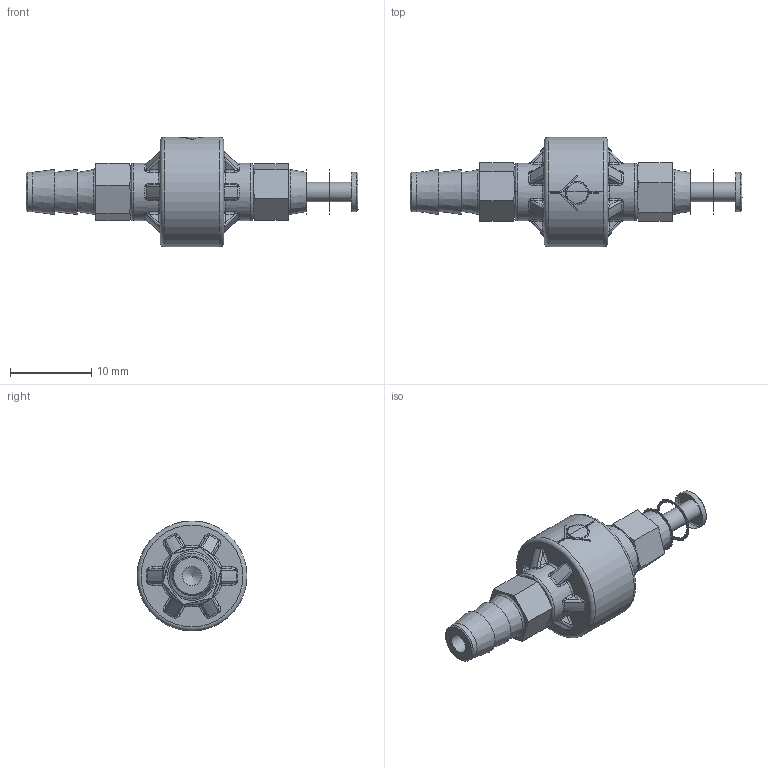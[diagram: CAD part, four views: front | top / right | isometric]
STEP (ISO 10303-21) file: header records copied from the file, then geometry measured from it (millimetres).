
FILE_DESCRIPTION(/* description */ (''),/* implementation_level */ '2;1');
FILE_NAME(/* name */ 'K:\Normteile INVENTOR\Air-Logic\Check Valves\F-2804-404-B86.stp',/* time_stamp */ '2020-07-01T14:14:15+02:00',/* author */ ('j.supersaxo'),/* organization */ (''),/* preprocessor_version */ 'ST-DEVELOPER v18',/* originating_system */ 'Autodesk Inventor 2020',/* authorisation */ '');
FILE_SCHEMA (('AUTOMOTIVE_DESIGN { 1 0 10303 214 3 1 1 }'));
Length unit declared in the file: millimetre
Products named in the file (1): F-2804-404-B86
Bounding box: 40.75 x 13.5 x 13.5 mm (x, y, z)
Volume: 618.2 mm3; surface area: 1956.6 mm2
Topology: 2 solids, 4 shells, 341 faces, 829 edges, 492 vertices
Faces by surface type: cylinder 92, bspline 89, plane 60, torus 48, cone 28, sphere 24
Full cylindrical faces by diameter (mm): 2.36 x2, 4.039 x2, 4.75 x14, 4.807 x2, 4.9 x2, 7.1 x2
Entity records: 19192 total; most frequent: CARTESIAN_POINT 11431, ORIENTED_EDGE 1618, DIRECTION 1471, EDGE_CURVE 813, AXIS2_PLACEMENT_3D 633, VERTEX_POINT 492, CIRCLE 362, EDGE_LOOP 359
